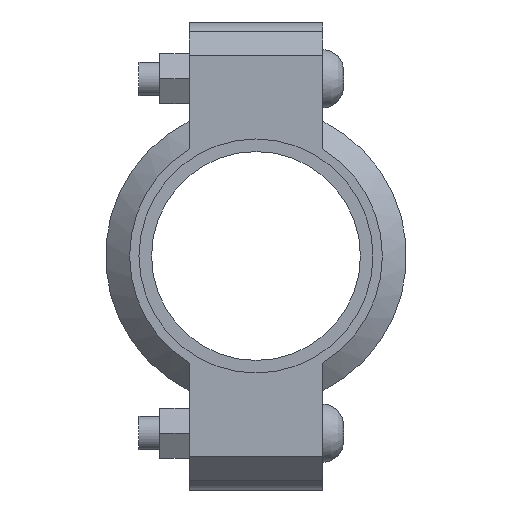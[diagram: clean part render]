
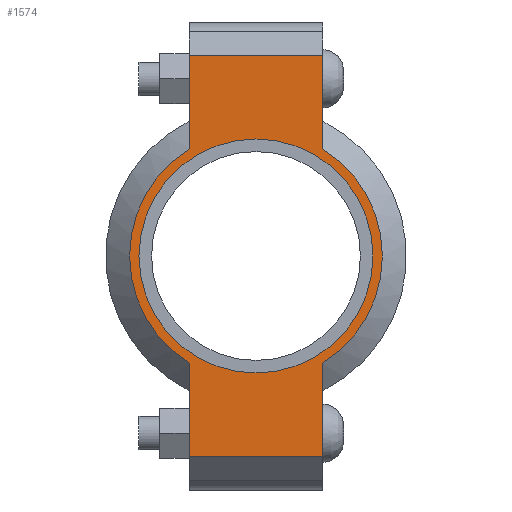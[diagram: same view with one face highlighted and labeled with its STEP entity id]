
A CAD part, left-side view. The second image highlights one B-rep face of the part: STEP entity #1574.
In plain terms, the highlighted planar face has unit normal (-1, 0, 0) as drawn and (0, 0, 1) by its records, which use the part's own axes.
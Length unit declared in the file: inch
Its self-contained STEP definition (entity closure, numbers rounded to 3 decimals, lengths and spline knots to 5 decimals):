
#198=LINE('',#2747,#291);
#206=LINE('',#2783,#299);
#213=LINE('',#2804,#306);
#222=LINE('',#2836,#315);
#223=LINE('',#2840,#316);
#224=LINE('',#2842,#317);
#291=VECTOR('',#2235,0.3937);
#299=VECTOR('',#2251,0.3937);
#306=VECTOR('',#2270,0.3937);
#315=VECTOR('',#2295,0.3937);
#316=VECTOR('',#2300,0.3937);
#317=VECTOR('',#2301,0.3937);
#373=FACE_BOUND('',#551,.T.);
#445=FACE_OUTER_BOUND('',#550,.T.);
#550=EDGE_LOOP('',(#1315,#1316,#1317,#1318,#1319,#1320,#1321,#1322));
#551=EDGE_LOOP('',(#1323));
#623=CIRCLE('',#1793,1.75);
#649=CIRCLE('',#1852,1.89);
#650=CIRCLE('',#1853,1.89);
#715=VERTEX_POINT('',#2563);
#758=VERTEX_POINT('',#2744);
#759=VERTEX_POINT('',#2746);
#770=VERTEX_POINT('',#2778);
#771=VERTEX_POINT('',#2782);
#778=VERTEX_POINT('',#2801);
#779=VERTEX_POINT('',#2803);
#789=VERTEX_POINT('',#2839);
#790=VERTEX_POINT('',#2841);
#871=EDGE_CURVE('',#715,#715,#623,.T.);
#932=EDGE_CURVE('',#759,#758,#198,.T.);
#946=EDGE_CURVE('',#771,#770,#206,.T.);
#956=EDGE_CURVE('',#779,#778,#213,.T.);
#971=EDGE_CURVE('',#771,#758,#222,.T.);
#972=EDGE_CURVE('',#770,#779,#649,.T.);
#973=EDGE_CURVE('',#789,#778,#223,.T.);
#974=EDGE_CURVE('',#789,#790,#224,.T.);
#975=EDGE_CURVE('',#790,#759,#650,.T.);
#1315=ORIENTED_EDGE('',*,*,#971,.F.);
#1316=ORIENTED_EDGE('',*,*,#946,.T.);
#1317=ORIENTED_EDGE('',*,*,#972,.T.);
#1318=ORIENTED_EDGE('',*,*,#956,.T.);
#1319=ORIENTED_EDGE('',*,*,#973,.F.);
#1320=ORIENTED_EDGE('',*,*,#974,.T.);
#1321=ORIENTED_EDGE('',*,*,#975,.T.);
#1322=ORIENTED_EDGE('',*,*,#932,.T.);
#1323=ORIENTED_EDGE('',*,*,#871,.T.);
#1416=PLANE('',#1851);
#1574=ADVANCED_FACE('',(#445,#373),#1416,.T.);
#1793=AXIS2_PLACEMENT_3D('',#2565,#2111,#2112);
#1851=AXIS2_PLACEMENT_3D('',#2837,#2296,#2297);
#1852=AXIS2_PLACEMENT_3D('',#2838,#2298,#2299);
#1853=AXIS2_PLACEMENT_3D('',#2843,#2302,#2303);
#2111=DIRECTION('center_axis',(0.,0.,-1.));
#2112=DIRECTION('ref_axis',(-1.,0.,0.));
#2235=DIRECTION('',(-1.,0.,0.));
#2251=DIRECTION('',(1.,0.,0.));
#2270=DIRECTION('',(1.,0.,0.));
#2295=DIRECTION('',(0.,1.,0.));
#2296=DIRECTION('center_axis',(0.,0.,1.));
#2297=DIRECTION('ref_axis',(1.,0.,0.));
#2298=DIRECTION('center_axis',(0.,0.,1.));
#2299=DIRECTION('ref_axis',(-1.,0.,0.));
#2300=DIRECTION('',(0.,-1.,0.));
#2301=DIRECTION('',(-1.,0.,0.));
#2302=DIRECTION('center_axis',(0.,0.,1.));
#2303=DIRECTION('ref_axis',(-1.,0.,0.));
#2563=CARTESIAN_POINT('',(1.75,0.,0.94));
#2565=CARTESIAN_POINT('Origin',(0.,0.,0.94));
#2744=CARTESIAN_POINT('',(-3.,1.,0.94));
#2746=CARTESIAN_POINT('',(-1.60378,1.,0.94));
#2747=CARTESIAN_POINT('',(-3.5,1.,0.94));
#2778=CARTESIAN_POINT('',(-1.60378,-1.,0.94));
#2782=CARTESIAN_POINT('',(-3.,-1.,0.94));
#2783=CARTESIAN_POINT('',(3.5,-1.,0.94));
#2801=CARTESIAN_POINT('',(3.,-1.,0.94));
#2803=CARTESIAN_POINT('',(1.60378,-1.,0.94));
#2804=CARTESIAN_POINT('',(3.5,-1.,0.94));
#2836=CARTESIAN_POINT('',(-3.,0.5,0.94));
#2837=CARTESIAN_POINT('Origin',(0.,0.,
0.94));
#2838=CARTESIAN_POINT('Origin',(0.,0.,0.94));
#2839=CARTESIAN_POINT('',(3.,1.,0.94));
#2840=CARTESIAN_POINT('',(3.,-0.5,0.94));
#2841=CARTESIAN_POINT('',(1.60378,1.,0.94));
#2842=CARTESIAN_POINT('',(-3.5,1.,0.94));
#2843=CARTESIAN_POINT('Origin',(0.,0.,0.94));
